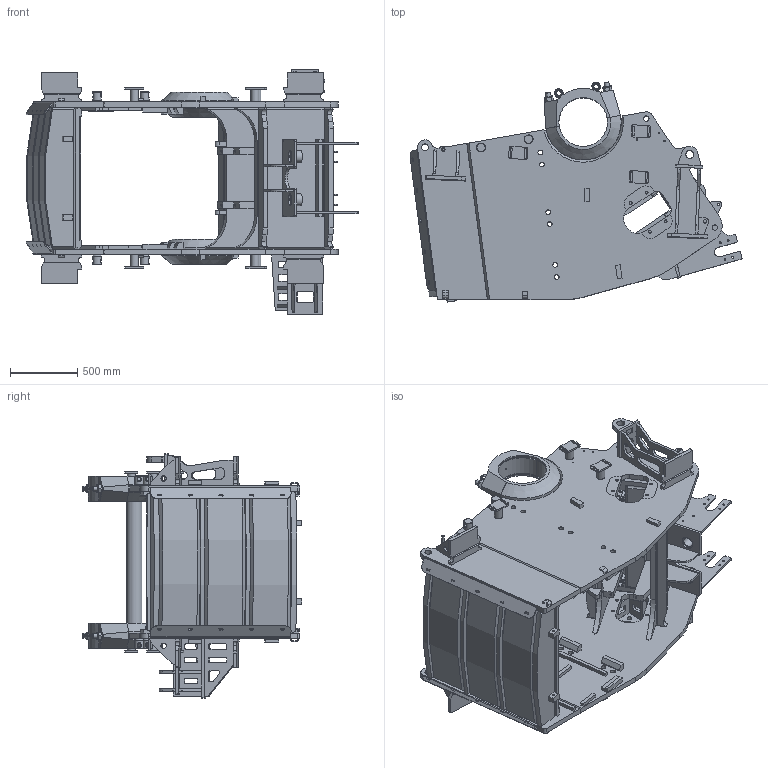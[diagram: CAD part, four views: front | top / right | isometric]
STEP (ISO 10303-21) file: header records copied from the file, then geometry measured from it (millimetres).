
FILE_DESCRIPTION(/* description */ (''),/* implementation_level */ '2;1');
FILE_NAME(/* name */ '4513244ugm000~03.stp',/* time_stamp */ '2013-11-26T13:24:49+01:00',/* author */ (''),/* organization */ (''),/* preprocessor_version */ 'ST-DEVELOPER v11',/* originating_system */ 'SIEMENS UGS NX 6.0',/* authorisation */ '');
FILE_SCHEMA (('AUTOMOTIVE_DESIGN { 1 0 10303 214 1 1 1 1 }'));
Length unit declared in the file: millimetre
Products named in the file (1): klkaA823uz26
Bounding box: 2459.56 x 1629.17 x 1815 mm (x, y, z)
Volume: 467608779.2 mm3; surface area: 31718553.5 mm2
Topology: 157 solids, 157 shells, 2991 faces, 7779 edges, 5124 vertices
Faces by surface type: plane 1738, cylinder 841, cone 176, bspline 124, torus 112
Full cylindrical faces by diameter (mm): 3.3 x2, 5 x4, 6.8 x4, 8 x6, 8.5 x2, 10 x2, 11 x4, 12 x2, 13.6 x4, 13.835 x4, 14 x28, 15.8 x2, 16 x4, 17.5 x8, 20 x2, 21 x8, 22.5 x2, 25 x2, 27 x4, 30 x4, 32 x10, 35 x18, 36 x8, 38 x4, 40 x16, 44.3 x6, 50 x4, 59.8 x8, 60 x15, 60.3 x6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
Entity records: 94590 total; most frequent: CARTESIAN_POINT 21095, DIRECTION 14609, ORIENTED_EDGE 14338, EDGE_CURVE 7169, AXIS2_PLACEMENT_3D 5088, VERTEX_POINT 4886, LINE 4433, VECTOR 4433
